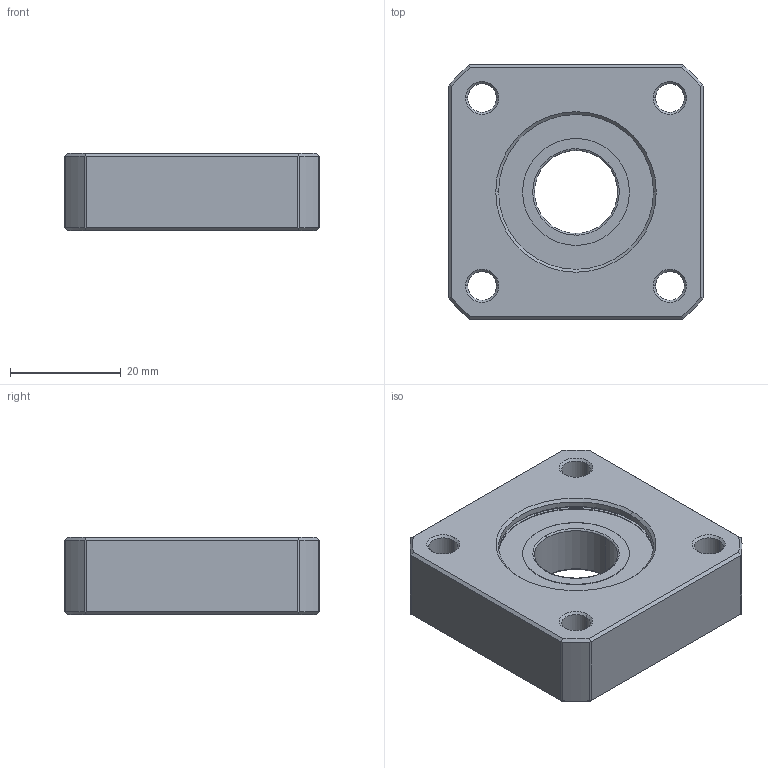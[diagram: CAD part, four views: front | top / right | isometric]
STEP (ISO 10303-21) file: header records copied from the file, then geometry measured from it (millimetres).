
FILE_DESCRIPTION (( 'STEP AP203' ), '1' );
FILE_NAME ('SBS15.STEP', '2009-05-27T05:39:05', ( '冠犁泅' ), ( '俺惯何' ), 'SwSTEP 2.0', 'SolidWorks 2007', '' );
FILE_SCHEMA (( 'CONFIG_CONTROL_DESIGN' ));
Length unit declared in the file: millimetre
Products named in the file (4): 6002zz_ル遽; sbs15-housing_ル遽; SBS15; retaining ring for bore RTW-32
Assembly tree (3 placements, depth 2):
  SBS15
    6002zz_ル遽
    sbs15-housing_ル遽
    retaining ring for bore RTW-32
Bounding box: 46 x 46 x 14 mm (x, y, z)
Volume: 16272.3 mm3; surface area: 14135 mm2
Topology: 2 solids, 17 shells, 182 faces, 453 edges, 272 vertices
Faces by surface type: cylinder 69, plane 45, bspline 38, cone 30
Entity records: 7396 total; most frequent: CARTESIAN_POINT 2962, DIRECTION 873, ORIENTED_EDGE 802, EDGE_CURVE 409, AXIS2_PLACEMENT_3D 363, VERTEX_POINT 272, EDGE_LOOP 215, CIRCLE 212
